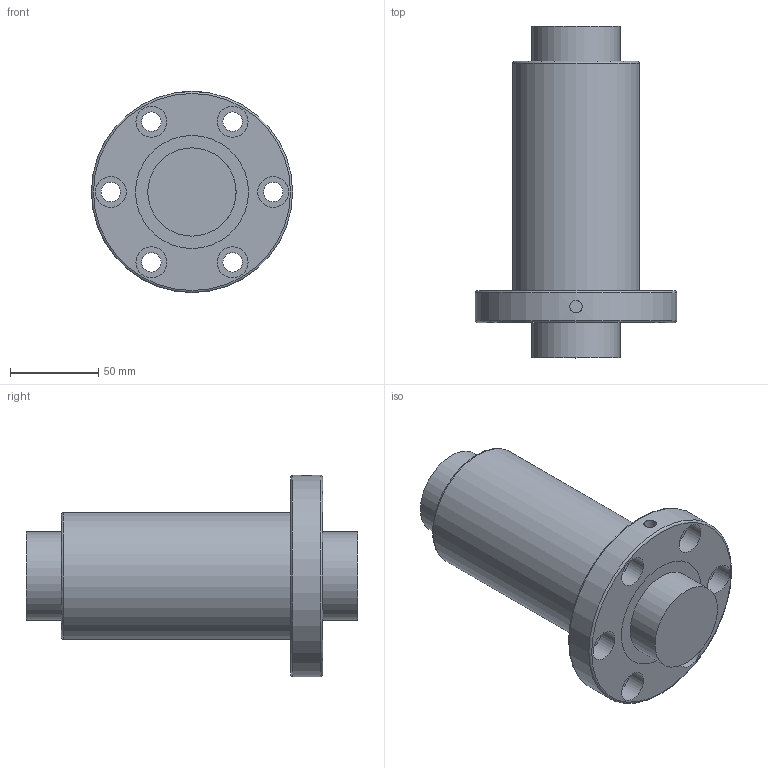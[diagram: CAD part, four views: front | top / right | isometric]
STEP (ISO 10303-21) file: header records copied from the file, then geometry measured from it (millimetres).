
FILE_DESCRIPTION(/* description */ (''),/* implementation_level */ '2;1');
FILE_NAME(/* name */ 'OFI05010-4.stp',/* time_stamp */ '2017-03-13T10:46:15+08:00',/* author */ (''),/* organization */ (''),/* preprocessor_version */ 'ST-DEVELOPER v11',/* originating_system */ 'SIEMENS UGS NX 6.0',/* authorisation */ '');
FILE_SCHEMA (('CONFIG_CONTROL_DESIGN'));
Length unit declared in the file: millimetre
Products named in the file (1): OFI05010-4
Bounding box: 114 x 188 x 114 mm (x, y, z)
Volume: 771214.7 mm3; surface area: 122043 mm2
Topology: 4 solids, 4 shells, 44 faces, 81 edges, 54 vertices
Faces by surface type: cylinder 23, plane 18, torus 3
Full cylindrical faces by diameter (mm): 7 x1, 11 x6, 17.5 x6, 50 x4, 64 x4, 72 x1, 114 x1
Entity records: 1104 total; most frequent: CARTESIAN_POINT 200, DIRECTION 186, EDGE_LOOP 98, ORIENTED_EDGE 98, FACE_BOUND 95, AXIS2_PLACEMENT_3D 93, VERTEX_POINT 49, EDGE_CURVE 49
